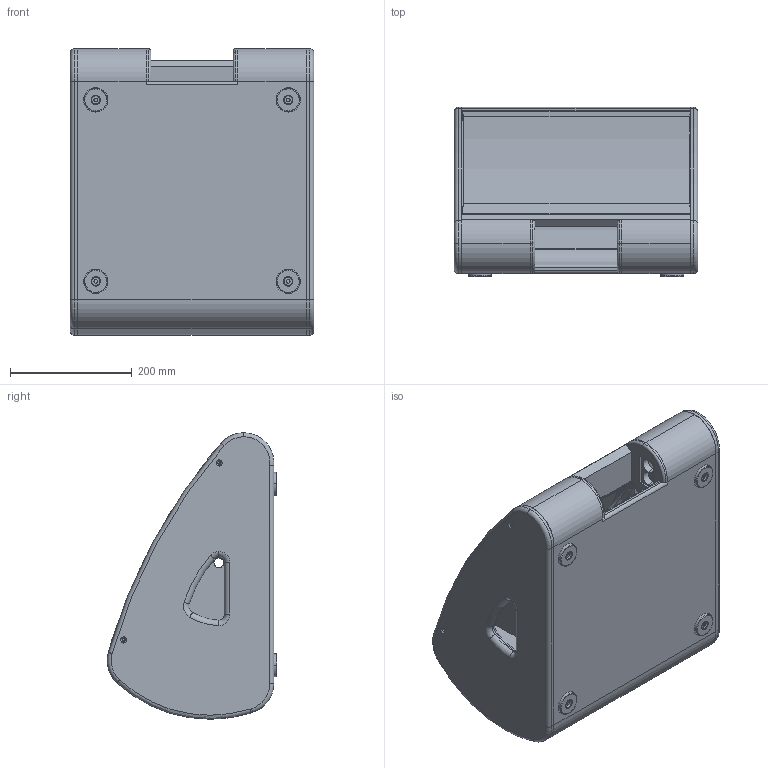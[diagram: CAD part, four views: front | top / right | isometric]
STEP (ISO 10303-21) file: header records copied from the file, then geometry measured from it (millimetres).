
FILE_DESCRIPTION (( 'STEP AP203' ), '1' );
FILE_NAME ('SEEBURG_M1.STEP', '2012-09-26T11:04:06', ( 'Fabian' ), ( '' ), 'SwSTEP 2.0', 'SolidWorks 2009', '' );
FILE_SCHEMA (( 'CONFIG_CONTROL_DESIGN' ));
Length unit declared in the file: millimetre
Products named in the file (5): M1-Griffblech_Internet; M1-Gitter_Internet; SEEBURG_M1; SEEBURG_M1_Internet; gummifuss
Assembly tree (8 placements, depth 2):
  SEEBURG_M1
    M1-Griffblech_Internet  x2
    gummifuss  x4
    M1-Gitter_Internet
    SEEBURG_M1_Internet
Bounding box: 400 x 278.59 x 470.31 mm (x, y, z)
Volume: 10696492.7 mm3; surface area: 2211308.8 mm2
Topology: 19 solids, 19 shells, 485 faces, 1251 edges, 811 vertices
Faces by surface type: plane 224, cylinder 198, torus 59, cone 4
Entity records: 14878 total; most frequent: CARTESIAN_POINT 2925, DIRECTION 2467, ORIENTED_EDGE 2310, EDGE_CURVE 1155, AXIS2_PLACEMENT_3D 887, VERTEX_POINT 751, VECTOR 693, LINE 693
